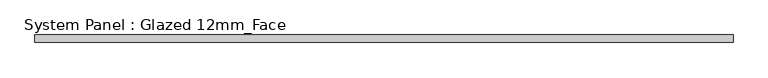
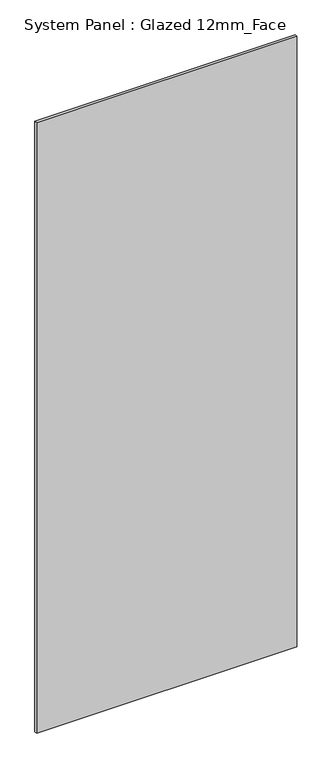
"""IFC4 building model written with IfcOpenShell, lengths in millimetres: plate geometry, System Panel : Glazed 12mm_Face."""

from ifc_helpers import new_model, si_unit, origin, origin_with_axes, place, context, project, spatial, polyline, outline, extrude, source, transform, mapped, element, save


def system_panel_glazed_12mm_face_335c03bf(model_context):
    return source(origin(), model_context, "Body", "SweptSolid", [
        extrude(outline(polyline([(564.5833776, 0.0), (-564.5833776, 0.0), (-564.5833776, 12.0), (564.5833776, 12.0), (564.5833776, 0.0)])), origin_with_axes(), (0.0, 0.0, 1.0), 2800.0),
    ])


if __name__ == "__main__":
    model = new_model("IFC4")
    model_context = context("Model", 3, world=origin())
    ifc_project = project(units=[si_unit("LENGTHUNIT", "METRE", prefix="MILLI")], contexts=[model_context])
    site = spatial("IfcSite", under=ifc_project)
    building = spatial("IfcBuilding", under=site)
    placement = place(None, origin())
    system_panel_glazed_12mm_face_shape = system_panel_glazed_12mm_face_335c03bf(model_context)
    element("IfcPlate", 1, ObjectType="System Panel : Glazed 12mm_Face", at=placement, inside=building, context=model_context, shape_type="MappedRepresentation", body=[
        mapped(system_panel_glazed_12mm_face_shape, transform((0.0, 0.0, 0.0), x_axis=(1.0, 0.0, 0.0), y_axis=(0.0, 1.0, 0.0), z_axis=(0.0, 0.0, 1.0))),
    ])
    save(model, "model.ifc")
